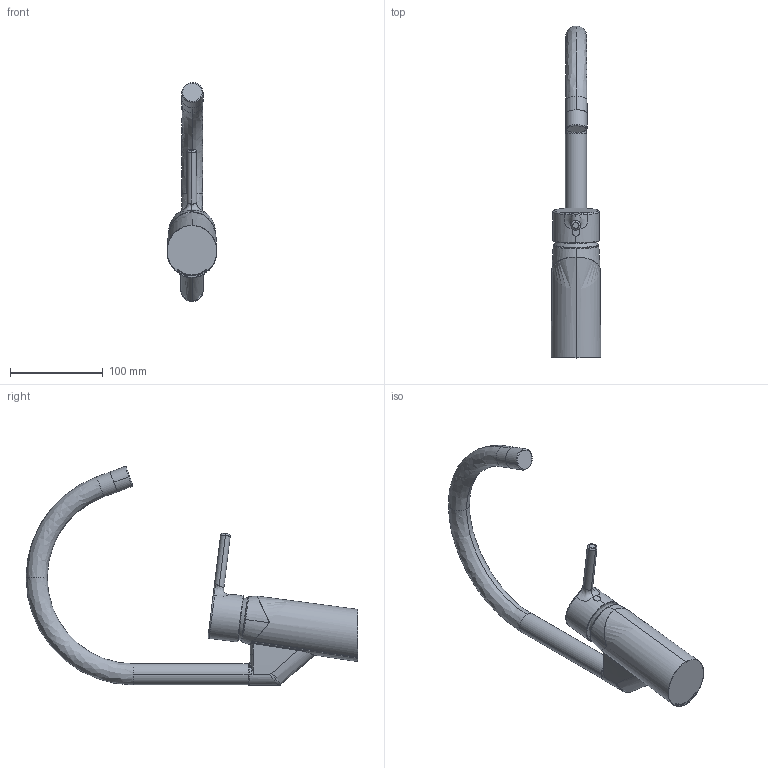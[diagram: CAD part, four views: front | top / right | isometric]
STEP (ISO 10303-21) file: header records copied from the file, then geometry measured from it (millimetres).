
FILE_DESCRIPTION (( 'STEP AP203' ), '1' );
FILE_NAME ('2838FN(2023).STEP', '2023-04-26T10:38:53', ( '' ), ( '' ), 'SwSTEP 2.0', 'SolidWorks 2016', '' );
FILE_SCHEMA (( 'CONFIG_CONTROL_DESIGN' ));
Length unit declared in the file: millimetre
Products named in the file (1): 2838FN(2023)
Bounding box: 53.75 x 357.23 x 235.74 mm (x, y, z)
Volume: 591578 mm3; surface area: 89014.4 mm2
Topology: 6 solids, 9 shells, 248 faces, 610 edges, 380 vertices
Faces by surface type: bspline 160, cylinder 41, plane 37, cone 5, torus 4, sphere 1
Entity records: 88510 total; most frequent: CARTESIAN_POINT 84058, ORIENTED_EDGE 1214, EDGE_CURVE 607, DIRECTION 430, B_SPLINE_CURVE_WITH_KNOTS 418, VERTEX_POINT 378, EDGE_LOOP 249, FACE_OUTER_BOUND 248
